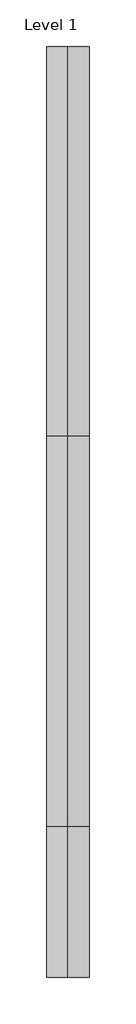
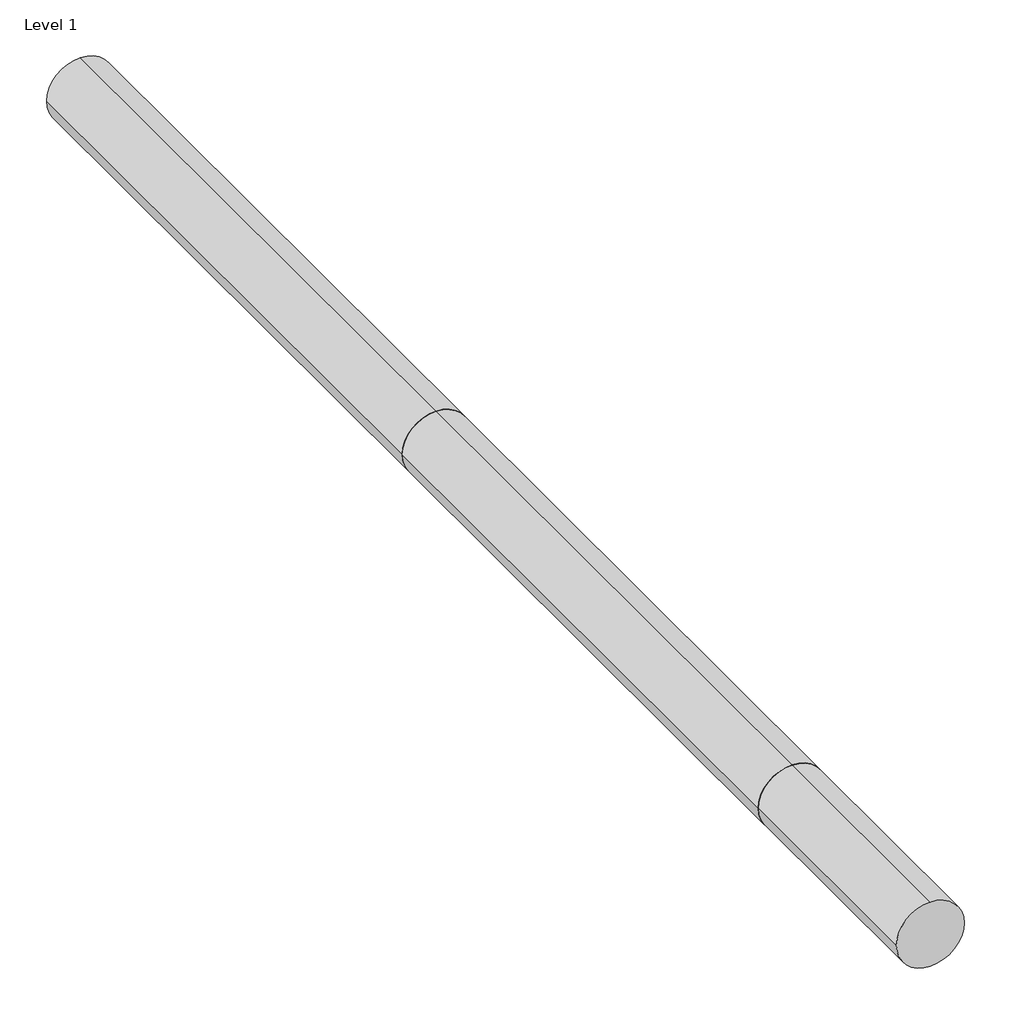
# One storey, incomplete: 3 pipe segments.
"""IFC4 building model written with IfcOpenShell, lengths in millimetres."""

import ifcopenshell
import ifcopenshell.guid

model = None  # the IFC model being written
_history = None  # IfcOwnerHistory: only IFC2X3 demands one
_inside = {}  # id of a spatial element -> (the spatial element, [elements in it])
_under = {}  # id of a project, library or spatial element -> (it, [spatial elements below it])
_declared = {}  # id of a project -> (the project, [libraries it declares])
_typed = {}  # id of a type object -> (the type object, [elements of that type])
_made_of = {}  # id of a material, layer set ... -> (it, [elements and type objects made of it])


def new_model(schema):
    """Start an empty IFC model of exactly this schema.

    Asked for "IFC4X3", IfcOpenShell would pick the latest addendum, in which some entities
    have other attributes; the version numbers below select the first issue.
    IFC2X3 requires an IfcOwnerHistory on every rooted entity: one is made here for all.
    """
    global model, _history
    if schema == "IFC4X3":
        model = ifcopenshell.file(schema_version=(4, 3, 0, 0))
    else:
        model = ifcopenshell.file(schema=schema)
    _inside.clear()
    _under.clear()
    _declared.clear()
    _typed.clear()
    _made_of.clear()
    _history = None
    if model.schema == "IFC2X3":
        org = make("IfcOrganization", Name="unknown")
        user = make(
            "IfcPersonAndOrganization",
            ThePerson=make("IfcPerson", FamilyName="unknown"),
            TheOrganization=org,
        )
        app = make(
            "IfcApplication",
            ApplicationDeveloper=org,
            Version="unknown",
            ApplicationFullName="unknown",
            ApplicationIdentifier="unknown",
        )
        _history = make(
            "IfcOwnerHistory",
            OwningUser=user,
            OwningApplication=app,
            ChangeAction="ADDED",
            CreationDate=0,
        )
    return model


def make(cls, **values):
    """One entity of the class cls with the attributes given. An attribute that is None is left unset."""
    return model.create_entity(
        cls, **{name: value for name, value in values.items() if value is not None}
    )


def rooted(cls, **values):
    """An entity with a GlobalId (a new one), such as an element, a storey or a relation."""
    return make(cls, GlobalId=ifcopenshell.guid.new(), OwnerHistory=_history, **values)


def si_unit(unit_type, name, prefix=None):
    """IfcSIUnit, for example si_unit("LENGTHUNIT", "METRE", prefix="MILLI")."""
    return make("IfcSIUnit", UnitType=unit_type, Prefix=prefix, Name=name)


def assignment(units):
    """IfcUnitAssignment: the units of a project."""
    return None if units is None else make("IfcUnitAssignment", Units=units)


def point(xyz):
    """IfcCartesianPoint."""
    return None if xyz is None else make("IfcCartesianPoint", Coordinates=xyz)


def direction(xyz):
    """IfcDirection."""
    return None if xyz is None else make("IfcDirection", DirectionRatios=xyz)


def frame(location, z_axis=None, x_axis=None):
    """IfcAxis2Placement3D, a coordinate frame: its origin and axes. An axis left out is left unset."""
    return make(
        "IfcAxis2Placement3D",
        Location=point(location),
        Axis=direction(z_axis),
        RefDirection=direction(x_axis),
    )


def frame_2d(location, x_axis=None):
    """IfcAxis2Placement2D, a coordinate frame in the plane: its origin and x axis."""
    return make(
        "IfcAxis2Placement2D", Location=point(location), RefDirection=direction(x_axis)
    )


def origin():
    """The frame at (0, 0, 0) with its axes left unset."""
    return frame((0.0, 0.0, 0.0))


def place(relative_to, where):
    """IfcLocalPlacement: puts the frame where relative to a parent placement (None: the world)."""
    return make(
        "IfcLocalPlacement", PlacementRelTo=relative_to, RelativePlacement=where
    )


def context(
    kind, dimensions, precision=None, world=None, true_north=None, identifier=None
):
    """IfcGeometricRepresentationContext, for example the 3D "Model" context."""
    return make(
        "IfcGeometricRepresentationContext",
        ContextIdentifier=identifier,
        ContextType=kind,
        CoordinateSpaceDimension=dimensions,
        Precision=precision,
        WorldCoordinateSystem=world,
        TrueNorth=true_north,
    )


def project(units=None, contexts=None):
    """IfcProject with its units and contexts."""
    return rooted(
        "IfcProject",
        Name="project",
        RepresentationContexts=contexts,
        UnitsInContext=assignment(units),
    )


def spatial(cls, under=None, at=None, **own):
    """A site, building, storey or space (cls), placed at a placement, below another one or the project."""
    s = rooted(cls, ObjectPlacement=at, **own)
    if under is not None:
        _under.setdefault(under.id(), (under, []))[1].append(s)
    return s


def circle_curve(where, radius):
    """IfcCircle in the frame where."""
    return make("IfcCircle", Position=where, Radius=radius)


def trimmed(basis, trim1, trim2, sense, master):
    """IfcTrimmedCurve: the piece of a basis curve between two trims."""
    return make(
        "IfcTrimmedCurve",
        BasisCurve=basis,
        Trim1=trim1,
        Trim2=trim2,
        SenseAgreement=sense,
        MasterRepresentation=master,
    )


def segment(curve, same_sense, transition):
    """IfcCompositeCurveSegment."""
    return make(
        "IfcCompositeCurveSegment",
        Transition=transition,
        SameSense=same_sense,
        ParentCurve=curve,
    )


def composite_curve(segments, self_intersect=None):
    """IfcCompositeCurve: segments joined end to end."""
    return make("IfcCompositeCurve", Segments=segments, SelfIntersect=self_intersect)


def outline(outer, holes=None, kind="AREA"):
    """IfcArbitraryClosedProfileDef: a profile drawn as a closed curve; with holes, ...WithVoids."""
    if holes is None:
        return make("IfcArbitraryClosedProfileDef", ProfileType=kind, OuterCurve=outer)
    return make(
        "IfcArbitraryProfileDefWithVoids",
        ProfileType=kind,
        OuterCurve=outer,
        InnerCurves=holes,
    )


def extrude(swept, where, along, depth):
    """IfcExtrudedAreaSolid: the profile swept, set in the frame where, extruded along a direction by depth."""
    return make(
        "IfcExtrudedAreaSolid",
        SweptArea=swept,
        Position=where,
        ExtrudedDirection=direction(along),
        Depth=depth,
    )


def shape(context_of_items, identifier, shape_type, items):
    """IfcShapeRepresentation: the items that make up one representation, for example the "Body"."""
    return make(
        "IfcShapeRepresentation",
        ContextOfItems=context_of_items,
        RepresentationIdentifier=identifier,
        RepresentationType=shape_type,
        Items=items,
    )


def made_of(thing, what):
    """Note that an element or type object is made of a material, layer set ...; save() writes the relation."""
    if what is not None:
        _made_of.setdefault(what.id(), (what, []))[1].append(thing)
    return thing


def element(
    cls,
    number,
    at=None,
    inside=None,
    cuts=None,
    type_object=None,
    material=None,
    context=None,
    identifier="Body",
    shape_type=None,
    held_by="IfcProductDefinitionShape",
    body=None,
    shapes=None,
    **own,
):
    """One element of the class cls, such as IfcWall. Its Tag is "e" and its number.

    at: its placement. inside: the storey or other place that contains it. cuts: it is an
    opening in that element (IfcRelVoidsElement). A single representation is given by context,
    identifier, shape_type and body (its items); several are given by shapes. held_by: the class
    of the entity that holds the representations. save() writes the other relations.
    """
    e = rooted(cls, Tag="e%d" % number, ObjectPlacement=at, **own)
    if body is not None:
        shapes = [shape(context, identifier, shape_type, body)]
    if shapes is not None:
        e.Representation = make(held_by, Representations=shapes)
    if inside is not None:
        _inside.setdefault(inside.id(), (inside, []))[1].append(e)
    if cuts is not None:
        rooted(
            "IfcRelVoidsElement", RelatingBuildingElement=cuts, RelatedOpeningElement=e
        )
    if type_object is not None:
        _typed.setdefault(type_object.id(), (type_object, []))[1].append(e)
    return made_of(e, material)


def aggregate(whole, parts):
    """IfcRelAggregates: a whole, such as a stair, and the parts it consists of."""
    return rooted("IfcRelAggregates", RelatingObject=whole, RelatedObjects=parts)


def save(model, path):
    """Write the relations noted so far, then the file.

    IfcRelAggregates (storeys below a building ...), IfcRelContainedInSpatialStructure (elements
    in a storey), IfcRelDefinesByType, IfcRelAssociatesMaterial and IfcRelDeclares: one each for
    every whole, place, type object, material and project.
    """
    for whole, parts in _under.values():
        aggregate(whole, parts)
    for where, things in _inside.values():
        rooted(
            "IfcRelContainedInSpatialStructure",
            RelatedElements=things,
            RelatingStructure=where,
        )
    for kind, things in _typed.values():
        rooted("IfcRelDefinesByType", RelatedObjects=things, RelatingType=kind)
    for what, things in _made_of.values():
        rooted("IfcRelAssociatesMaterial", RelatedObjects=things, RelatingMaterial=what)
    for by, libraries in _declared.values():
        rooted("IfcRelDeclares", RelatingContext=by, RelatedDefinitions=libraries)
    model.write(path)


model = new_model("IFC4")

# Units and contexts
model_context = context("Model", 3, world=origin())
ifc_project = project(units=[si_unit("LENGTHUNIT", "METRE", prefix="MILLI")], contexts=[model_context])

# Site, building, storey
site = spatial("IfcSite", under=ifc_project)
building = spatial("IfcBuilding", under=site)
storey = spatial("IfcBuildingStorey", under=building, Name="Level 1", Elevation=0.0)

# Pipe segments
placement = place(None, origin())
element("IfcPipeSegment", 1, ObjectType="MASTER 3 PLUS pipe", at=placement, inside=storey, context=model_context, shape_type="SweptSolid", body=[
    extrude(outline(composite_curve([segment(trimmed(circle_curve(frame_2d((0.0, -23.9727807)), 55.0), [point((0.0, 31.0272193))], [point((55.0, -23.9727807))], False, "CARTESIAN"), True, "CONTINUOUS"), segment(trimmed(circle_curve(frame_2d((0.0, -23.9727807)), 55.0), [point((55.0, -23.9727807))], [point((0.0, -78.9727807))], False, "CARTESIAN"), True, "CONTINUOUS"), segment(trimmed(circle_curve(frame_2d((0.0, -23.9727807)), 55.0), [point((0.0, -78.9727807))], [point((-55.0, -23.9727807))], False, "CARTESIAN"), True, "CONTINUOUS"), segment(trimmed(circle_curve(frame_2d((0.0, -23.9727807)), 55.0), [point((-55.0, -23.9727807))], [point((0.0, 31.0272193))], False, "CARTESIAN"), True, "CONTINUOUS")], self_intersect=False)), frame((0.0, -232.6170091, 0.0), z_axis=(0.0, 1.0, 0.0), x_axis=(0.0, 0.0, 1.0)), (0.0, 0.0, 1.0), 999.0),
])
element("IfcPipeSegment", 2, ObjectType="MASTER 3 PLUS pipe", at=placement, inside=storey, context=model_context, shape_type="SweptSolid", body=[
    extrude(outline(composite_curve([segment(trimmed(circle_curve(frame_2d((0.0, -23.9727807)), 55.0), [point((0.0, 31.0272193))], [point((55.0, -23.9727807))], False, "CARTESIAN"), True, "CONTINUOUS"), segment(trimmed(circle_curve(frame_2d((0.0, -23.9727807)), 55.0), [point((55.0, -23.9727807))], [point((0.0, -78.9727807))], False, "CARTESIAN"), True, "CONTINUOUS"), segment(trimmed(circle_curve(frame_2d((0.0, -23.9727807)), 55.0), [point((0.0, -78.9727807))], [point((-55.0, -23.9727807))], False, "CARTESIAN"), True, "CONTINUOUS"), segment(trimmed(circle_curve(frame_2d((0.0, -23.9727807)), 55.0), [point((-55.0, -23.9727807))], [point((0.0, 31.0272193))], False, "CARTESIAN"), True, "CONTINUOUS")], self_intersect=False)), frame((0.0, -620.5494259, 0.0), z_axis=(0.0, 1.0, 0.0), x_axis=(0.0, 0.0, 1.0)), (0.0, 0.0, 1.0), 386.9324169),
])
element("IfcPipeSegment", 3, ObjectType="MASTER 3 PLUS pipe", at=placement, inside=storey, context=model_context, shape_type="SweptSolid", body=[
    extrude(outline(composite_curve([segment(trimmed(circle_curve(frame_2d((0.0, -23.9727807)), 55.0), [point((0.0, 31.0272193))], [point((55.0, -23.9727807))], False, "CARTESIAN"), True, "CONTINUOUS"), segment(trimmed(circle_curve(frame_2d((0.0, -23.9727807)), 55.0), [point((55.0, -23.9727807))], [point((0.0, -78.9727807))], False, "CARTESIAN"), True, "CONTINUOUS"), segment(trimmed(circle_curve(frame_2d((0.0, -23.9727807)), 55.0), [point((0.0, -78.9727807))], [point((-55.0, -23.9727807))], False, "CARTESIAN"), True, "CONTINUOUS"), segment(trimmed(circle_curve(frame_2d((0.0, -23.9727807)), 55.0), [point((-55.0, -23.9727807))], [point((0.0, 31.0272193))], False, "CARTESIAN"), True, "CONTINUOUS")], self_intersect=False)), frame((0.0, 767.3829909, 0.0), z_axis=(0.0, 1.0, 0.0), x_axis=(0.0, 0.0, 1.0)), (0.0, 0.0, 1.0), 998.5),
])

save(model, "model.ifc")
